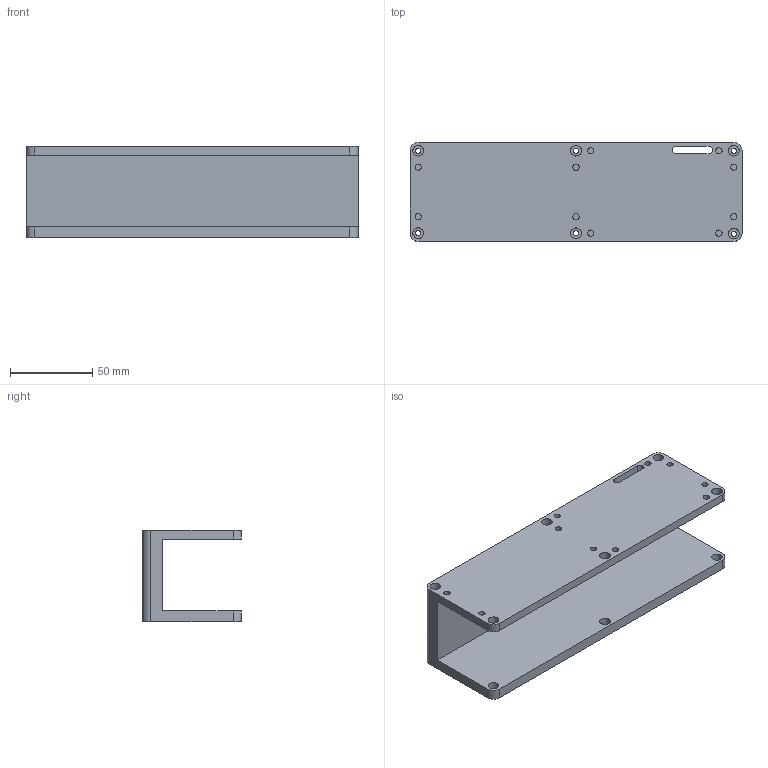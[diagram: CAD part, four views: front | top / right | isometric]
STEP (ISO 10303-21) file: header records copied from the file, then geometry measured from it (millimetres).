
FILE_DESCRIPTION(/* description */ (''),/* implementation_level */ '2;1');
FILE_NAME(/* name */ 'C:\Users\Karol\Documents\Inventor\gniazdo_desktop\C-Clamp_Bracket_40mm.stp',/* time_stamp */ '2026-03-16T23:12:19+01:00',/* author */ ('Karol'),/* organization */ (''),/* preprocessor_version */ 'ST-DEVELOPER v16.1',/* originating_system */ 'Autodesk Inventor 2016',/* authorisation */ '');
FILE_SCHEMA (('AUTOMOTIVE_DESIGN { 1 0 10303 214 3 1 1 }'));
Length unit declared in the file: millimetre
Products named in the file (1): blat_holder40mm
Bounding box: 201.44 x 60 x 55.3 mm (x, y, z)
Volume: 234140.9 mm3; surface area: 74892.9 mm2
Topology: 1 solids, 1 shells, 53 faces, 131 edges, 90 vertices
Faces by surface type: cylinder 33, plane 20
Full cylindrical faces by diameter (mm): 3.2 x6, 3.8 x10, 6.5 x9
Entity records: 1584 total; most frequent: DIRECTION 280, CARTESIAN_POINT 250, ORIENTED_EDGE 208, EDGE_LOOP 122, AXIS2_PLACEMENT_3D 120, EDGE_CURVE 104, VERTEX_POINT 86, FACE_BOUND 69
